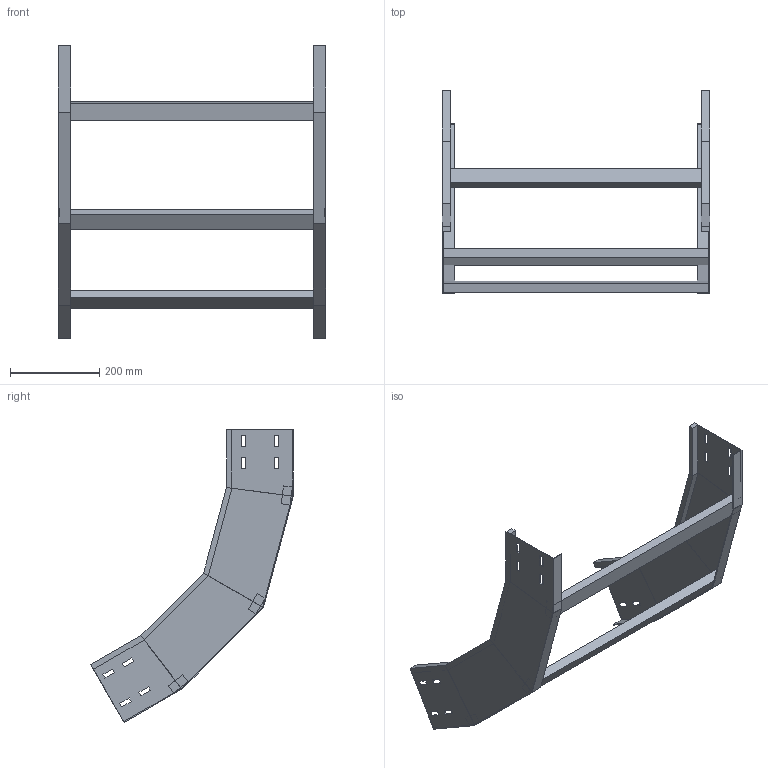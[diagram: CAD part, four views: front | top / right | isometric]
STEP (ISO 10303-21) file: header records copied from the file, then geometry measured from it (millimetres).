
FILE_DESCRIPTION (( 'STEP AP214' ), '1' );
FILE_NAME ('40J5F600.step', '2025-02-21T16:26:58', ( '' ), ( '' ), 'SwSTEP 2.0', 'SolidWorks 2023', '' );
FILE_SCHEMA (( 'AUTOMOTIVE_DESIGN' ));
Length unit declared in the file: millimetre
Products named in the file (3): 40J5F600; LONGH.SALITA_60°_H150_R500; TRAVERSINO_600
Assembly tree (5 placements, depth 2):
  40J5F600
    LONGH.SALITA_60°_H150_R500  x2
    TRAVERSINO_600  x3
Bounding box: 600 x 455.08 x 658.32 mm (x, y, z)
Volume: 2221120.4 mm3; surface area: 791499.3 mm2
Topology: 5 solids, 5 shells, 150 faces, 372 edges, 232 vertices
Faces by surface type: plane 150
Entity records: 2216 total; most frequent: CARTESIAN_POINT 372, ORIENTED_EDGE 360, DIRECTION 340, LINE 180, EDGE_CURVE 180, VECTOR 180, VERTEX_POINT 112, EDGE_LOOP 88
